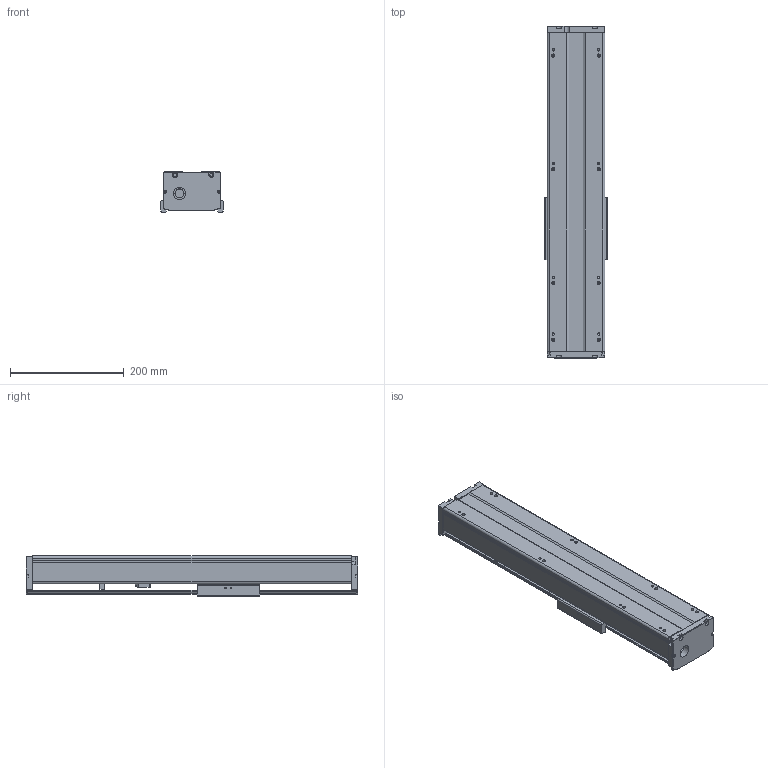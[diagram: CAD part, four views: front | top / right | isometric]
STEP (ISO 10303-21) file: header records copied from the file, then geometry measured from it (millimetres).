
FILE_DESCRIPTION(/* description */ (''),/* implementation_level */ '2;1');
FILE_NAME(/* name */ 'TKA100-200A1FI_asm1.stp',/* time_stamp */ '2017-02-21T08:19:23+08:00',/* author */ (''),/* organization */ (''),/* preprocessor_version */ 'ST-DEVELOPER v15',/* originating_system */ 'SIEMENS PLM Software NX 8.5',/* authorisation */ '');
FILE_SCHEMA (('AUTOMOTIVE_DESIGN { 1 0 10303 214 3 1 1 1 }'));
Length unit declared in the file: millimetre
Products named in the file (3): 200-02; 200-01; TKA100-200A1FI_asm1_stp
Assembly tree (2 placements, depth 2):
  TKA100-200A1FI_asm1_stp
    200-01
    200-02
Bounding box: 110 x 584 x 71 mm (x, y, z)
Volume: 1409657.9 mm3; surface area: 446581.2 mm2
Topology: 2 solids, 9 shells, 839 faces, 2164 edges, 1371 vertices
Faces by surface type: plane 355, cylinder 279, cone 145, torus 34, bspline 26
Full cylindrical faces by diameter (mm): 2.5 x4, 2.6 x8, 3.3 x8, 3.4 x4, 3.8 x4, 4.2 x17, 4.3 x4, 4.5 x4, 5 x1, 5.5 x20, 6.6 x4, 8 x5, 9 x4, 10 x8, 11 x4, 12 x7, 15.3 x1, 16 x1, 22 x1, 24 x1, 28 x5, 30 x1
Entity records: 30006 total; most frequent: CARTESIAN_POINT 10436, DIRECTION 4062, ORIENTED_EDGE 3818, EDGE_CURVE 1909, AXIS2_PLACEMENT_3D 1560, VERTEX_POINT 1304, EDGE_LOOP 1109, LINE 942
